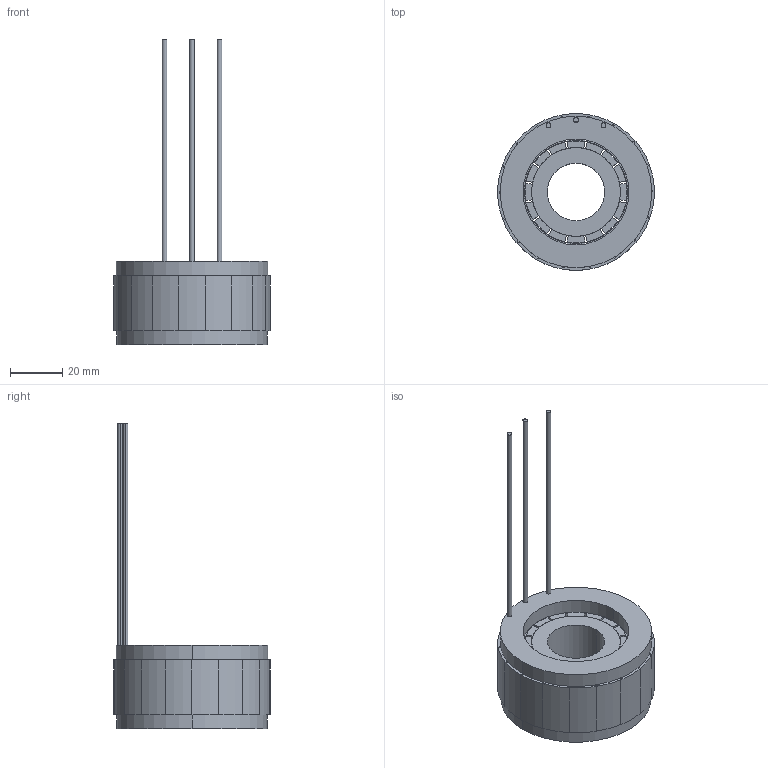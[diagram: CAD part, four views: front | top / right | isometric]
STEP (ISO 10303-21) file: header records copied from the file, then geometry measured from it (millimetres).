
FILE_DESCRIPTION (( 'STEP AP203' ), '1' );
FILE_NAME ('307080379SS FMC06021-0051-7522N-8DK00-V1.0.STEP', '2022-12-08T09:17:44', ( 'muse' ), ( 'muse' ), 'SwSTEP 2.0', 'SolidWorks 2022', '' );
FILE_SCHEMA (( 'CONFIG_CONTROL_DESIGN' ));
Length unit declared in the file: millimetre
Products named in the file (5): 60L12.6定子铁芯; 60转子铁芯17.27; 线包; 307080379SS FMC06021-0051-7522N-8DK00-V1.0; 60l17.27磁钢
Assembly tree (36 placements, depth 2):
  307080379SS FMC06021-0051-7522N-8DK00-V1.0
    60L12.6定子铁芯  x18
    线包
    60转子铁芯17.27
    60l17.27磁钢  x16
Bounding box: 60 x 59.9 x 116.8 mm (x, y, z)
Volume: 53136.9 mm3; surface area: 41516 mm2
Topology: 37 solids, 37 shells, 555 faces, 1434 edges, 956 vertices
Faces by surface type: plane 361, cylinder 194
Entity records: 3199 total; most frequent: DIRECTION 380, CARTESIAN_POINT 316, ORIENTED_EDGE 264, AXIS2_PLACEMENT_3D 152, EDGE_CURVE 132, COORDINATED_UNIVERSAL_TIME_OFFSET 97, LOCAL_TIME 97, DATE_AND_TIME 97
